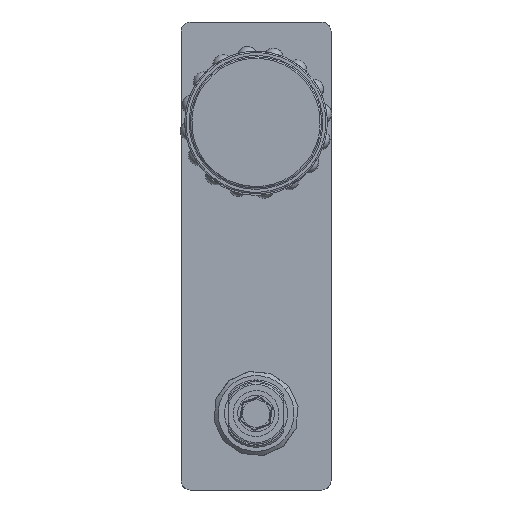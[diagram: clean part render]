
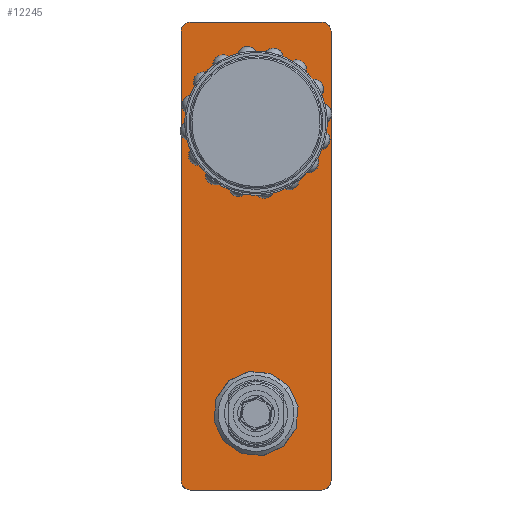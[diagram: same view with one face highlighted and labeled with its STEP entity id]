
A CAD part, front view. The second image highlights one B-rep face of the part: STEP entity #12245.
In plain terms, the highlighted planar face has unit normal (0, -1, 0).
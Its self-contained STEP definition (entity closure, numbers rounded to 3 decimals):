
#232 = VERTEX_POINT ( 'NONE', #17362 ) ;
#11989 = VERTEX_POINT ( 'NONE', #20324 ) ;
#11991 = EDGE_CURVE ( 'NONE', #11989, #11992, #20323, .T. ) ;
#11992 = VERTEX_POINT ( 'NONE', #20318 ) ;
#12009 = EDGE_CURVE ( 'NONE', #232, #12010, #20347, .T. ) ;
#12010 = VERTEX_POINT ( 'NONE', #20342 ) ;
#12075 = EDGE_CURVE ( 'NONE', #12010, #232, #20518, .T. ) ;
#12223 = EDGE_CURVE ( 'NONE', #12224, #12225, #20821, .T. ) ;
#12224 = VERTEX_POINT ( 'NONE', #20816 ) ;
#12225 = VERTEX_POINT ( 'NONE', #20815 ) ;
#12226 = ORIENTED_EDGE ( 'NONE', *, *, #12227, .T. ) ;
#12227 = EDGE_CURVE ( 'NONE', #12225, #12228, #20872, .T. ) ;
#12228 = VERTEX_POINT ( 'NONE', #20868 ) ;
#12229 = ORIENTED_EDGE ( 'NONE', *, *, #12230, .T. ) ;
#12230 = EDGE_CURVE ( 'NONE', #12228, #12231, #20867, .T. ) ;
#12231 = VERTEX_POINT ( 'NONE', #20862 ) ;
#12232 = ORIENTED_EDGE ( 'NONE', *, *, #12233, .T. ) ;
#12233 = EDGE_CURVE ( 'NONE', #12231, #12234, #20861, .T. ) ;
#12234 = VERTEX_POINT ( 'NONE', #20857 ) ;
#12235 = ORIENTED_EDGE ( 'NONE', *, *, #12236, .T. ) ;
#12236 = EDGE_CURVE ( 'NONE', #12234, #12291, #20856, .T. ) ;
#12245 = ADVANCED_FACE ( 'NONE', ( #20906, #20905, #20904 ), #20903, .T. ) ;
#12246 = EDGE_LOOP ( 'NONE', ( #12247, #12248 ) ) ;
#12247 = ORIENTED_EDGE ( 'NONE', *, *, #12075, .F. ) ;
#12248 = ORIENTED_EDGE ( 'NONE', *, *, #12009, .F. ) ;
#12249 = EDGE_LOOP ( 'NONE', ( #12250, #12226, #12229, #12232, #12235, #12292, #12295, #12298 ) ) ;
#12250 = ORIENTED_EDGE ( 'NONE', *, *, #12223, .T. ) ;
#12291 = VERTEX_POINT ( 'NONE', #21000 ) ;
#12292 = ORIENTED_EDGE ( 'NONE', *, *, #12293, .T. ) ;
#12293 = EDGE_CURVE ( 'NONE', #12291, #12294, #20999, .T. ) ;
#12294 = VERTEX_POINT ( 'NONE', #20995 ) ;
#12295 = ORIENTED_EDGE ( 'NONE', *, *, #12296, .T. ) ;
#12296 = EDGE_CURVE ( 'NONE', #12294, #12297, #20994, .T. ) ;
#12297 = VERTEX_POINT ( 'NONE', #20989 ) ;
#12298 = ORIENTED_EDGE ( 'NONE', *, *, #12299, .T. ) ;
#12299 = EDGE_CURVE ( 'NONE', #12297, #12224, #20988, .T. ) ;
#12300 = EDGE_LOOP ( 'NONE', ( #12301, #12303 ) ) ;
#12301 = ORIENTED_EDGE ( 'NONE', *, *, #12302, .F. ) ;
#12302 = EDGE_CURVE ( 'NONE', #11992, #11989, #21045, .T. ) ;
#12303 = ORIENTED_EDGE ( 'NONE', *, *, #11991, .F. ) ;
#17362 = CARTESIAN_POINT ( 'NONE',  ( 51.5, -2., -11. ) ) ;
#20318 = CARTESIAN_POINT ( 'NONE',  ( -42.3, -2., 22.5 ) ) ;
#20319 = DIRECTION ( 'NONE',  ( 0., 0., -1. ) ) ;
#20320 = DIRECTION ( 'NONE',  ( 0., -1., 0. ) ) ;
#20321 = CARTESIAN_POINT ( 'NONE',  ( -42.3, -2., 0. ) ) ;
#20322 = AXIS2_PLACEMENT_3D ( 'NONE', #20321, #20320, #20319 ) ;
#20323 = CIRCLE ( 'NONE', #20322, 22.5 ) ;
#20324 = CARTESIAN_POINT ( 'NONE',  ( -42.3, -2., -22.5 ) ) ;
#20342 = CARTESIAN_POINT ( 'NONE',  ( 51.5, -2., 11. ) ) ;
#20343 = DIRECTION ( 'NONE',  ( 0., 0., -1. ) ) ;
#20344 = DIRECTION ( 'NONE',  ( 0., -1., 0. ) ) ;
#20345 = CARTESIAN_POINT ( 'NONE',  ( 51.5, -2., 0. ) ) ;
#20346 = AXIS2_PLACEMENT_3D ( 'NONE', #20345, #20344, #20343 ) ;
#20347 = CIRCLE ( 'NONE', #20346, 11. ) ;
#20514 = DIRECTION ( 'NONE',  ( 0., 0., -1. ) ) ;
#20515 = DIRECTION ( 'NONE',  ( 0., -1., 0. ) ) ;
#20516 = CARTESIAN_POINT ( 'NONE',  ( 51.5, -2., 0. ) ) ;
#20517 = AXIS2_PLACEMENT_3D ( 'NONE', #20516, #20515, #20514 ) ;
#20518 = CIRCLE ( 'NONE', #20517, 11. ) ;
#20815 = CARTESIAN_POINT ( 'NONE',  ( -73.5, -2., -24.5 ) ) ;
#20816 = CARTESIAN_POINT ( 'NONE',  ( -76.5, -2., -21.5 ) ) ;
#20817 = DIRECTION ( 'NONE',  ( 0., 0., -1. ) ) ;
#20818 = DIRECTION ( 'NONE',  ( 0., -1., 0. ) ) ;
#20819 = CARTESIAN_POINT ( 'NONE',  ( -73.5, -2., -21.5 ) ) ;
#20820 = AXIS2_PLACEMENT_3D ( 'NONE', #20819, #20818, #20817 ) ;
#20821 = CIRCLE ( 'NONE', #20820, 3. ) ;
#20852 = DIRECTION ( 'NONE',  ( 0., 0., -1. ) ) ;
#20853 = DIRECTION ( 'NONE',  ( 0., -1., 0. ) ) ;
#20854 = CARTESIAN_POINT ( 'NONE',  ( 73.5, -2., 21.5 ) ) ;
#20855 = AXIS2_PLACEMENT_3D ( 'NONE', #20854, #20853, #20852 ) ;
#20856 = CIRCLE ( 'NONE', #20855, 3. ) ;
#20857 = CARTESIAN_POINT ( 'NONE',  ( 76.5, -2., 21.5 ) ) ;
#20858 = DIRECTION ( 'NONE',  ( 0., 0., 1. ) ) ;
#20859 = VECTOR ( 'NONE', #20858, 1000. ) ;
#20860 = CARTESIAN_POINT ( 'NONE',  ( 76.5, -2., -21.5 ) ) ;
#20861 = LINE ( 'NONE', #20860, #20859 ) ;
#20862 = CARTESIAN_POINT ( 'NONE',  ( 76.5, -2., -21.5 ) ) ;
#20863 = DIRECTION ( 'NONE',  ( 0., 0., -1. ) ) ;
#20864 = DIRECTION ( 'NONE',  ( 0., -1., 0. ) ) ;
#20865 = CARTESIAN_POINT ( 'NONE',  ( 73.5, -2., -21.5 ) ) ;
#20866 = AXIS2_PLACEMENT_3D ( 'NONE', #20865, #20864, #20863 ) ;
#20867 = CIRCLE ( 'NONE', #20866, 3. ) ;
#20868 = CARTESIAN_POINT ( 'NONE',  ( 73.5, -2., -24.5 ) ) ;
#20869 = DIRECTION ( 'NONE',  ( 1., 0., 0. ) ) ;
#20870 = VECTOR ( 'NONE', #20869, 1000. ) ;
#20871 = CARTESIAN_POINT ( 'NONE',  ( -73.5, -2., -24.5 ) ) ;
#20872 = LINE ( 'NONE', #20871, #20870 ) ;
#20897 = DIRECTION ( 'NONE',  ( 0., 0., -1. ) ) ;
#20898 = DIRECTION ( 'NONE',  ( 0., -1., 0. ) ) ;
#20899 = AXIS2_PLACEMENT_3D ( 'NONE', #20902, #20898, #20897 ) ;
#20902 = CARTESIAN_POINT ( 'NONE',  ( -73.5, -2., -21.5 ) ) ;
#20903 = PLANE ( 'NONE',  #20899 ) ;
#20904 = FACE_BOUND ( 'NONE', #12300, .T. ) ;
#20905 = FACE_OUTER_BOUND ( 'NONE', #12249, .T. ) ;
#20906 = FACE_BOUND ( 'NONE', #12246, .T. ) ;
#20988 = LINE ( 'NONE', #21048, #21047 ) ;
#20989 = CARTESIAN_POINT ( 'NONE',  ( -76.5, -2., 21.5 ) ) ;
#20990 = DIRECTION ( 'NONE',  ( 0., 0., -1. ) ) ;
#20991 = DIRECTION ( 'NONE',  ( 0., -1., 0. ) ) ;
#20992 = CARTESIAN_POINT ( 'NONE',  ( -73.5, -2., 21.5 ) ) ;
#20993 = AXIS2_PLACEMENT_3D ( 'NONE', #20992, #20991, #20990 ) ;
#20994 = CIRCLE ( 'NONE', #20993, 3. ) ;
#20995 = CARTESIAN_POINT ( 'NONE',  ( -73.5, -2., 24.5 ) ) ;
#20996 = DIRECTION ( 'NONE',  ( -1., 0., 0. ) ) ;
#20997 = VECTOR ( 'NONE', #20996, 1000. ) ;
#20998 = CARTESIAN_POINT ( 'NONE',  ( 0., -2., 24.5 ) ) ;
#20999 = LINE ( 'NONE', #20998, #20997 ) ;
#21000 = CARTESIAN_POINT ( 'NONE',  ( 73.5, -2., 24.5 ) ) ;
#21041 = DIRECTION ( 'NONE',  ( 0., 0., -1. ) ) ;
#21042 = DIRECTION ( 'NONE',  ( 0., -1., 0. ) ) ;
#21043 = CARTESIAN_POINT ( 'NONE',  ( -42.3, -2., 0. ) ) ;
#21044 = AXIS2_PLACEMENT_3D ( 'NONE', #21043, #21042, #21041 ) ;
#21045 = CIRCLE ( 'NONE', #21044, 22.5 ) ;
#21046 = DIRECTION ( 'NONE',  ( 0., 0., -1. ) ) ;
#21047 = VECTOR ( 'NONE', #21046, 1000. ) ;
#21048 = CARTESIAN_POINT ( 'NONE',  ( -76.5, -2., 21.5 ) ) ;
